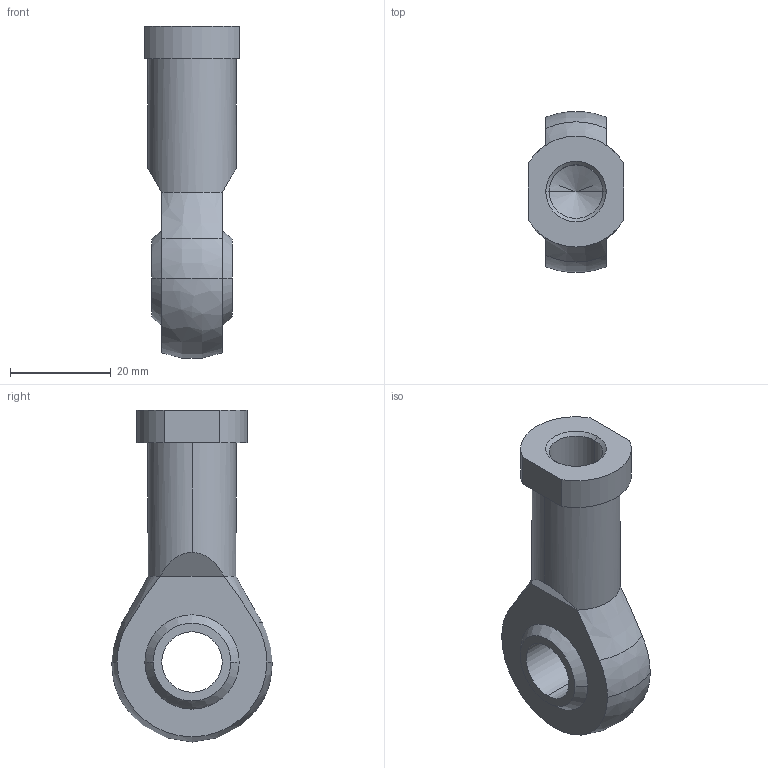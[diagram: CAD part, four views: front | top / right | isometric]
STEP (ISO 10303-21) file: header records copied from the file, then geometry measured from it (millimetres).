
FILE_DESCRIPTION (( 'STEP AP214' ), '1' );
FILE_NAME ('268408.STEP', '2013-06-26T10:50:52', ( '' ), ( '' ), 'SwSTEP 2.0', 'SolidWorks 2009', '' );
FILE_SCHEMA (( 'AUTOMOTIVE_DESIGN' ));
Length unit declared in the file: millimetre
Products named in the file (1): 268408
Bounding box: 19 x 31.91 x 65.87 mm (x, y, z)
Volume: 15330.1 mm3; surface area: 6200.3 mm2
Topology: 1 solids, 1 shells, 31 faces, 70 edges, 43 vertices
Faces by surface type: plane 10, cylinder 8, bspline 7, cone 6
Entity records: 1342 total; most frequent: CARTESIAN_POINT 288, DIRECTION 150, ORIENTED_EDGE 136, EDGE_CURVE 68, AXIS2_PLACEMENT_3D 65, VERTEX_POINT 43, CIRCLE 40, EDGE_LOOP 37
